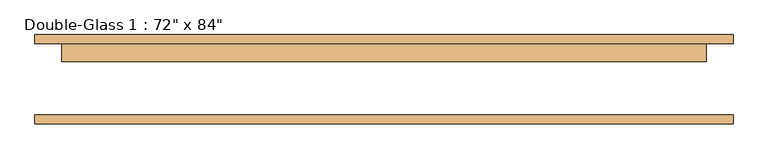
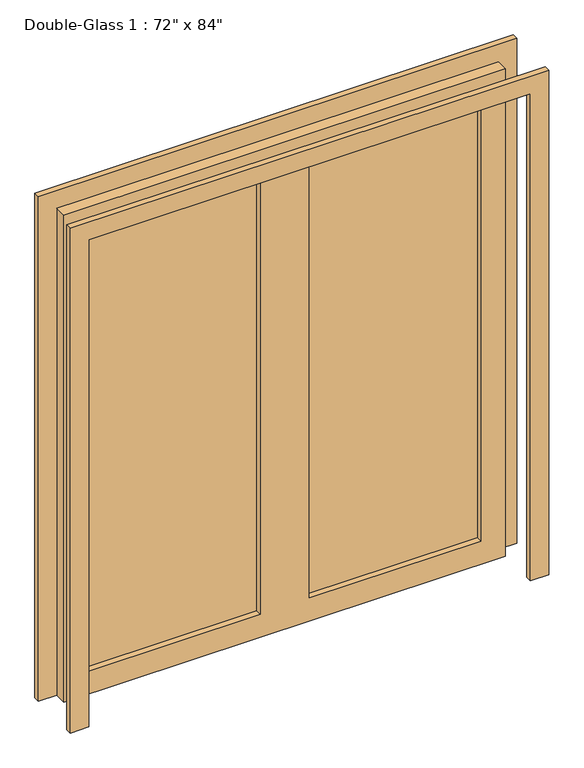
"""IFC4 building model written with IfcOpenShell, lengths in millimetres: door geometry."""

from ifc_helpers import new_model, si_unit, frame, origin, place, context, project, spatial, polyline, outline, extrude, source, transform, mapped, element, save


def door_a5cba548(model_context):
    return source(origin(), model_context, "Body", "SweptSolid", [
        extrude(outline(polyline([(0.0, 990.6), (2209.8, 990.6), (2209.8, -990.6), (0.0, -990.6), (0.0, -914.4), (2133.6, -914.4), (2133.6, 914.4), (0.0, 914.4), (0.0, 990.6)])), frame((0.0, -124.61875, 0.0), z_axis=(0.0, 1.0, 0.0), x_axis=(0.0, 0.0, 1.0)), (0.0, 0.0, 1.0), 25.4),
        extrude(outline(polyline([(2133.6, 914.4), (0.0, 914.4), (0.0, 990.6), (2209.8, 990.6), (2209.8, -990.6), (0.0, -990.6), (0.0, -914.4), (2133.6, -914.4), (2133.6, 914.4)])), frame((0.0, 103.98125, 0.0), z_axis=(0.0, 1.0, 0.0), x_axis=(0.0, 0.0, 1.0)), (0.0, 0.0, 1.0), 25.4),
        extrude(outline(polyline([(812.8, 78.58125), (101.6, 78.58125), (101.6, 85.725), (812.8, 85.725), (812.8, 78.58125)])), frame((0.0, 0.0, 101.6), z_axis=(0.0, 0.0, 1.0), x_axis=(1.0, 0.0, 0.0)), (0.0, 0.0, 1.0), 1930.4),
        extrude(outline(polyline([(-101.6, 78.58125), (-812.8, 78.58125), (-812.8, 85.725), (-101.6, 85.725), (-101.6, 78.58125)])), frame((0.0, 0.0, 101.6), z_axis=(0.0, 0.0, 1.0), x_axis=(1.0, 0.0, 0.0)), (0.0, 0.0, 1.0), 1930.4),
        extrude(outline(polyline([(2133.6, 914.4), (2133.6, -914.4), (0.0, -914.4), (0.0, 914.4), (2133.6, 914.4)]), holes=[polyline([(2032.0, -101.6), (101.6, -101.6), (101.6, -812.8), (2032.0, -812.8), (2032.0, -101.6)]), polyline([(2032.0, 812.8), (101.6, 812.8), (101.6, 101.6), (2032.0, 101.6), (2032.0, 812.8)])]), frame((0.0, 53.18125, 0.0), z_axis=(0.0, 1.0, 0.0), x_axis=(0.0, 0.0, 1.0)), (0.0, 0.0, 1.0), 50.8),
    ])


if __name__ == "__main__":
    model = new_model("IFC4")
    model_context = context("Model", 3, world=origin())
    ifc_project = project(units=[si_unit("LENGTHUNIT", "METRE", prefix="MILLI")], contexts=[model_context])
    site = spatial("IfcSite", under=ifc_project)
    building = spatial("IfcBuilding", under=site)
    placement = place(None, origin())
    door_shape = door_a5cba548(model_context)
    element("IfcDoor", 1, ObjectType="Double-Glass 1 : 72\" x 84\"", at=placement, inside=building, context=model_context, shape_type="MappedRepresentation", body=[
        mapped(door_shape, transform((0.0, 0.0, 0.0), x_axis=(1.0, 0.0, 0.0), y_axis=(0.0, 1.0, 0.0), z_axis=(0.0, 0.0, 1.0))),
    ])
    save(model, "model.ifc")
